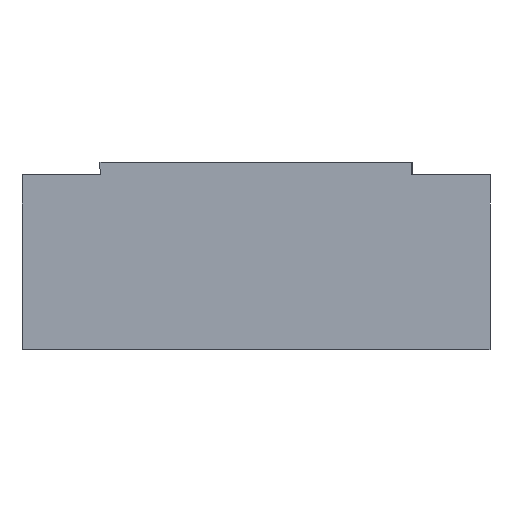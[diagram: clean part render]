
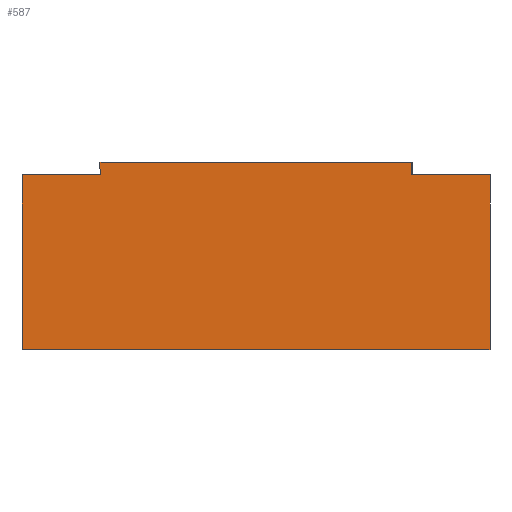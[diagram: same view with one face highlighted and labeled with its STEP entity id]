
A CAD part, left-side view. The second image highlights one B-rep face of the part: STEP entity #587.
In plain terms, the highlighted planar face has unit normal (-1, 0, 0).
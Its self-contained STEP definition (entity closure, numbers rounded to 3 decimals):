
#2 = VERTEX_POINT ( 'NONE', #20 ) ;
#7 = PLANE ( 'NONE',  #194 ) ;
#13 = EDGE_CURVE ( 'NONE', #853, #1146, #1059, .T. ) ;
#20 = CARTESIAN_POINT ( 'NONE',  ( -48., 25., 30. ) ) ;
#26 = CARTESIAN_POINT ( 'NONE',  ( -48., -37.5, 0. ) ) ;
#33 = VERTEX_POINT ( 'NONE', #26 ) ;
#48 = CARTESIAN_POINT ( 'NONE',  ( -48., 37.5, 28. ) ) ;
#64 = CARTESIAN_POINT ( 'NONE',  ( -48., 25., 28. ) ) ;
#75 = EDGE_CURVE ( 'NONE', #720, #1133, #2097, .T. ) ;
#84 = DIRECTION ( 'NONE',  ( 0., -1., 0. ) ) ;
#94 = EDGE_CURVE ( 'NONE', #1696, #33, #2007, .T. ) ;
#167 = CARTESIAN_POINT ( 'NONE',  ( -48., -25., 30. ) ) ;
#194 = AXIS2_PLACEMENT_3D ( 'NONE', #1132, #206, #396 ) ;
#205 = ORIENTED_EDGE ( 'NONE', *, *, #94, .T. ) ;
#206 = DIRECTION ( 'NONE',  ( 1., 0., 0. ) ) ;
#234 = CARTESIAN_POINT ( 'NONE',  ( -48., -25., 28. ) ) ;
#373 = ORIENTED_EDGE ( 'NONE', *, *, #1999, .F. ) ;
#396 = DIRECTION ( 'NONE',  ( 0., 0., -1. ) ) ;
#431 = DIRECTION ( 'NONE',  ( 0., -1., 0. ) ) ;
#442 = EDGE_LOOP ( 'NONE', ( #373, #1581, #2085, #1655, #1511, #2382, #1125, #205 ) ) ;
#486 = VERTEX_POINT ( 'NONE', #167 ) ;
#563 = CARTESIAN_POINT ( 'NONE',  ( -48., -37.5, 30. ) ) ;
#587 = ADVANCED_FACE ( 'NONE', ( #1563 ), #7, .F. ) ;
#633 = EDGE_CURVE ( 'NONE', #1133, #2, #2249, .T. ) ;
#649 = DIRECTION ( 'NONE',  ( 0., 0., -1. ) ) ;
#704 = LINE ( 'NONE', #563, #1807 ) ;
#711 = CARTESIAN_POINT ( 'NONE',  ( -48., -37.5, 30. ) ) ;
#720 = VERTEX_POINT ( 'NONE', #48 ) ;
#748 = VECTOR ( 'NONE', #84, 1000. ) ;
#853 = VERTEX_POINT ( 'NONE', #234 ) ;
#907 = LINE ( 'NONE', #711, #2329 ) ;
#918 = VECTOR ( 'NONE', #1546, 1000. ) ;
#991 = CARTESIAN_POINT ( 'NONE',  ( -48., -37.5, 0. ) ) ;
#997 = VECTOR ( 'NONE', #649, 1000. ) ;
#1001 = VECTOR ( 'NONE', #2053, 1000. ) ;
#1059 = LINE ( 'NONE', #1521, #1353 ) ;
#1125 = ORIENTED_EDGE ( 'NONE', *, *, #1402, .T. ) ;
#1132 = CARTESIAN_POINT ( 'NONE',  ( -48., -37.5, 30. ) ) ;
#1133 = VERTEX_POINT ( 'NONE', #1811 ) ;
#1146 = VERTEX_POINT ( 'NONE', #1625 ) ;
#1173 = CARTESIAN_POINT ( 'NONE',  ( -48., 40.483, 28. ) ) ;
#1353 = VECTOR ( 'NONE', #1714, 1000. ) ;
#1402 = EDGE_CURVE ( 'NONE', #720, #1696, #1979, .T. ) ;
#1464 = DIRECTION ( 'NONE',  ( 0., -1., 0. ) ) ;
#1506 = DIRECTION ( 'NONE',  ( 0., 0., -1. ) ) ;
#1510 = CARTESIAN_POINT ( 'NONE',  ( -48., 37.5, 30. ) ) ;
#1511 = ORIENTED_EDGE ( 'NONE', *, *, #633, .F. ) ;
#1521 = CARTESIAN_POINT ( 'NONE',  ( -48., -25., 28. ) ) ;
#1523 = VECTOR ( 'NONE', #431, 1000. ) ;
#1546 = DIRECTION ( 'NONE',  ( 0., 0., 1. ) ) ;
#1563 = FACE_OUTER_BOUND ( 'NONE', #442, .T. ) ;
#1581 = ORIENTED_EDGE ( 'NONE', *, *, #13, .F. ) ;
#1625 = CARTESIAN_POINT ( 'NONE',  ( -48., -37.5, 28. ) ) ;
#1655 = ORIENTED_EDGE ( 'NONE', *, *, #2342, .F. ) ;
#1696 = VERTEX_POINT ( 'NONE', #1941 ) ;
#1714 = DIRECTION ( 'NONE',  ( 0., -1., 0. ) ) ;
#1807 = VECTOR ( 'NONE', #1506, 1000. ) ;
#1811 = CARTESIAN_POINT ( 'NONE',  ( -48., 25., 28. ) ) ;
#1941 = CARTESIAN_POINT ( 'NONE',  ( -48., 37.5, 0. ) ) ;
#1979 = LINE ( 'NONE', #1510, #1001 ) ;
#1999 = EDGE_CURVE ( 'NONE', #1146, #33, #704, .T. ) ;
#2007 = LINE ( 'NONE', #991, #1523 ) ;
#2053 = DIRECTION ( 'NONE',  ( 0., 0., -1. ) ) ;
#2085 = ORIENTED_EDGE ( 'NONE', *, *, #2313, .F. ) ;
#2097 = LINE ( 'NONE', #1173, #748 ) ;
#2249 = LINE ( 'NONE', #64, #918 ) ;
#2309 = CARTESIAN_POINT ( 'NONE',  ( -48., -25., 28. ) ) ;
#2313 = EDGE_CURVE ( 'NONE', #486, #853, #2363, .T. ) ;
#2329 = VECTOR ( 'NONE', #1464, 1000. ) ;
#2342 = EDGE_CURVE ( 'NONE', #2, #486, #907, .T. ) ;
#2363 = LINE ( 'NONE', #2309, #997 ) ;
#2382 = ORIENTED_EDGE ( 'NONE', *, *, #75, .F. ) ;
